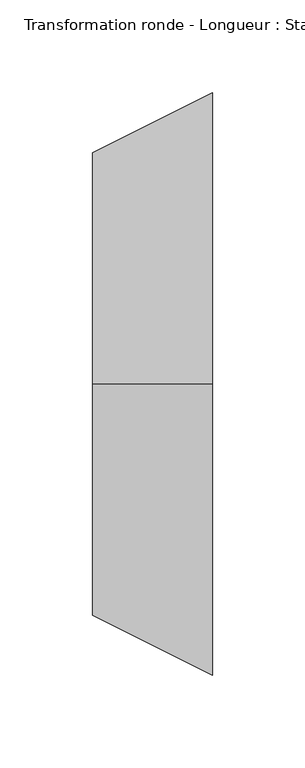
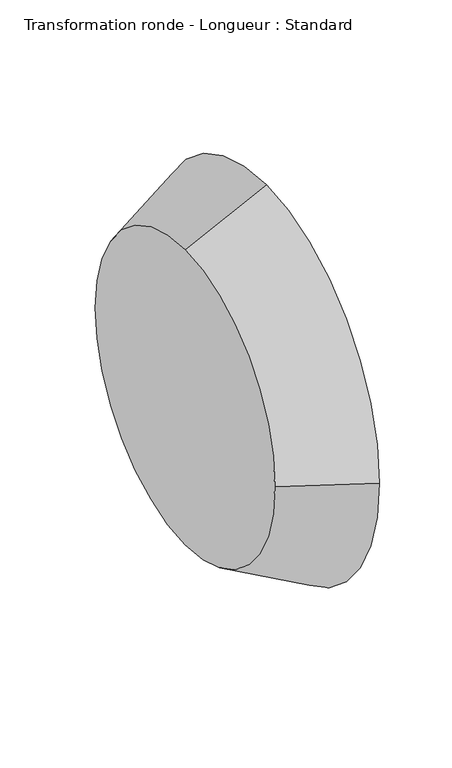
"""IFC4 building model written with IfcOpenShell, lengths in millimetres: duct fitting geometry, Transformation ronde - Longueur : Standard."""

from ifc_helpers import new_model, si_unit, frame, origin, place, context, project, spatial, polyline, circle_curve, source, transform, mapped, element, save
from ifc_brep_helpers import plane_surface, revolved_surface, advanced_brep


def transformation_ronde_longueur_standard_5c39a686(model_context):
    return source(origin(), model_context, "Body", "AdvancedBrep", [
        advanced_brep(
        [(65.0, 157.5, 0.0), (65.0, 0.0, 157.5), (65.0, -157.5, 0.0), (65.0, 0.0, -157.5), (0.0, 125.0, 0.0), (0.0, 0.0, -125.0), (0.0, -125.0, 0.0), (0.0, 0.0, 125.0)],
        [
            (0, 1, circle_curve(frame((65.0, 0.0, 0.0), z_axis=(1.0, 0.0, 0.0), x_axis=(0.0, 1.0, 0.0)), 157.5)),
            (1, 2, circle_curve(frame((65.0, 0.0, 0.0), z_axis=(1.0, 0.0, 0.0), x_axis=(0.0, 0.0, 1.0)), 157.5)),
            (2, 3, circle_curve(frame((65.0, 0.0, 0.0), z_axis=(1.0, 0.0, 0.0), x_axis=(0.0, -1.0, 0.0)), 157.5)),
            (3, 0, circle_curve(frame((65.0, 0.0, 0.0), z_axis=(1.0, 0.0, 0.0), x_axis=(0.0, 0.0, -1.0)), 157.5)),
            (4, 5, circle_curve(frame((0.0, 0.0, 0.0), z_axis=(-1.0, 0.0, 0.0), x_axis=(0.0, 0.0, -1.0)), 125.0)),
            (5, 6, circle_curve(frame((0.0, 0.0, 0.0), z_axis=(-1.0, 0.0, 0.0), x_axis=(0.0, -1.0, 0.0)), 125.0)),
            (6, 7, circle_curve(frame((0.0, 0.0, 0.0), z_axis=(-1.0, 0.0, 0.0), x_axis=(0.0, 0.0, 1.0)), 125.0)),
            (7, 4, circle_curve(frame((0.0, 0.0, 0.0), z_axis=(-1.0, 0.0, 0.0), x_axis=(0.0, 1.0, 0.0)), 125.0)),
            (0, 4),
            (7, 1),
            (6, 2),
            (5, 3),
        ],
        [
            plane_surface(frame((65.0, 0.0, 0.0), z_axis=(1.0, 0.0, 0.0), x_axis=(0.0, 0.0, 1.0))),
            plane_surface(frame((0.0, 0.0, 0.0), z_axis=(-1.0, 0.0, 0.0), x_axis=(0.0, 0.0, 1.0))),
            revolved_surface(polyline([(0.0, 0.0, 125.0), (65.0, 0.0, 157.5)]), (-250.0, 0.0, 0.0), (1.0, 0.0, 0.0)),
            revolved_surface(polyline([(0.0, -125.0, 0.0), (65.0, -157.5, 0.0)]), (-250.0, 0.0, 0.0), (1.0, 0.0, 0.0)),
            revolved_surface(polyline([(0.0, 0.0, -125.0), (65.0, 0.0, -157.5)]), (-250.0, 0.0, 0.0), (1.0, 0.0, 0.0)),
            revolved_surface(polyline([(0.0, 125.0, 0.0), (65.0, 157.5, 0.0)]), (-250.0, 0.0, 0.0), (1.0, 0.0, 0.0)),
        ],
        [
            (0, [[1, 2, 3, 4]]),
            (1, [[5, 6, 7, 8]]),
            (2, [[-1, 9, -8, 10]]),
            (3, [[-2, -10, -7, 11]]),
            (4, [[-3, -11, -6, 12]]),
            (5, [[-4, -12, -5, -9]]),
        ],
    ),
    ])


if __name__ == "__main__":
    model = new_model("IFC4")
    model_context = context("Model", 3, world=origin())
    ifc_project = project(units=[si_unit("LENGTHUNIT", "METRE", prefix="MILLI")], contexts=[model_context])
    site = spatial("IfcSite", under=ifc_project)
    building = spatial("IfcBuilding", under=site)
    placement = place(None, origin())
    transformation_ronde_longueur_standard_shape = transformation_ronde_longueur_standard_5c39a686(model_context)
    element("IfcDuctFitting", 1, ObjectType="Transformation ronde - Longueur : Standard", at=placement, inside=building, context=model_context, shape_type="MappedRepresentation", body=[
        mapped(transformation_ronde_longueur_standard_shape, transform((0.0, 0.0, 0.0), x_axis=(1.0, 0.0, 0.0), y_axis=(0.0, 1.0, 0.0), z_axis=(0.0, 0.0, 1.0))),
    ])
    save(model, "model.ifc")
